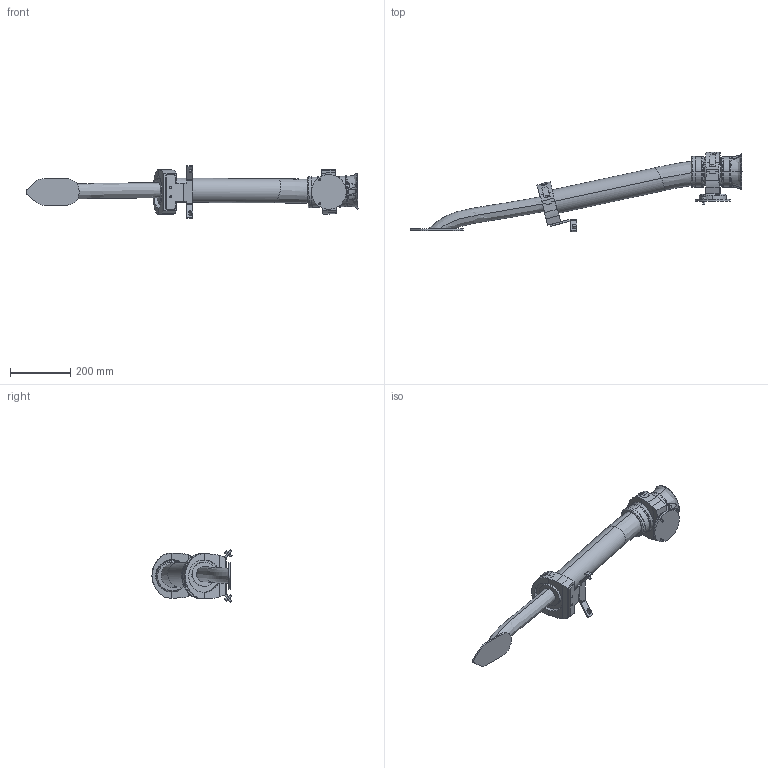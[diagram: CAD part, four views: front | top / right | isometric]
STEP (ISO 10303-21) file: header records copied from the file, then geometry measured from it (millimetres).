
FILE_DESCRIPTION (( 'STEP AP214' ), '1' );
FILE_NAME ('IRB6730-LID_220kg-290_OC_00_LINK04_CABLE.step', '2026-05-26T09:11:27', ( '' ), ( '' ), 'SwSTEP 2.0', 'SolidWorks 2024', '' );
FILE_SCHEMA (( 'AUTOMOTIVE_DESIGN' ));
Length unit declared in the file: millimetre
Products named in the file (1): IRB6730-LID_220kg-290_OC_00_LINK04_CABLE
Bounding box: 1099.61 x 265.02 x 174.65 mm (x, y, z)
Volume: 5678070.6 mm3; surface area: 431204.5 mm2
Topology: 1 solids, 1 shells, 424 faces, 1058 edges, 672 vertices
Faces by surface type: plane 222, cylinder 136, bspline 24, cone 22, torus 16, sphere 4
Entity records: 25354 total; most frequent: CARTESIAN_POINT 10703, ORIENTED_EDGE 2116, DIRECTION 2044, EDGE_CURVE 1058, AXIS2_PLACEMENT_3D 755, VERTEX_POINT 672, VECTOR 534, LINE 534
